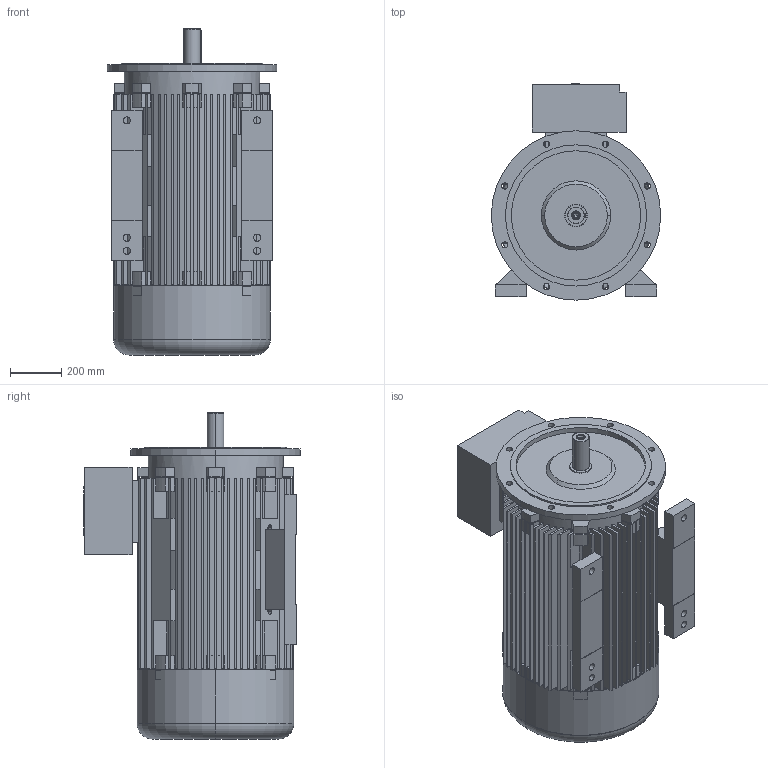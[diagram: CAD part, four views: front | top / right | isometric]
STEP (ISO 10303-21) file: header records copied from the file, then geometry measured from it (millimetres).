
FILE_DESCRIPTION (( 'STEP AP203' ), '1' );
FILE_NAME ('20.18433_C 7AT 315L -2 B35 Exd STANDK.STEP', '2018-06-26T09:52:36', ( '' ), ( '' ), 'SwSTEP 2.0', 'SolidWorks 2018', '' );
FILE_SCHEMA (( 'CONFIG_CONTROL_DESIGN' ));
Length unit declared in the file: millimetre
Products named in the file (1): 20.18433_C 7AT 315L -2 B35 Exd STANDK
Bounding box: 660 x 843 x 1270 mm (x, y, z)
Volume: 113474970 mm3; surface area: 11681291.5 mm2
Topology: 7 solids, 7 shells, 852 faces, 2292 edges, 1519 vertices
Faces by surface type: plane 680, cylinder 141, cone 18, bspline 9, torus 4
Entity records: 26866 total; most frequent: CARTESIAN_POINT 4971, ORIENTED_EDGE 4580, DIRECTION 4460, EDGE_CURVE 2290, VECTOR 1724, LINE 1724, VERTEX_POINT 1519, AXIS2_PLACEMENT_3D 1368
